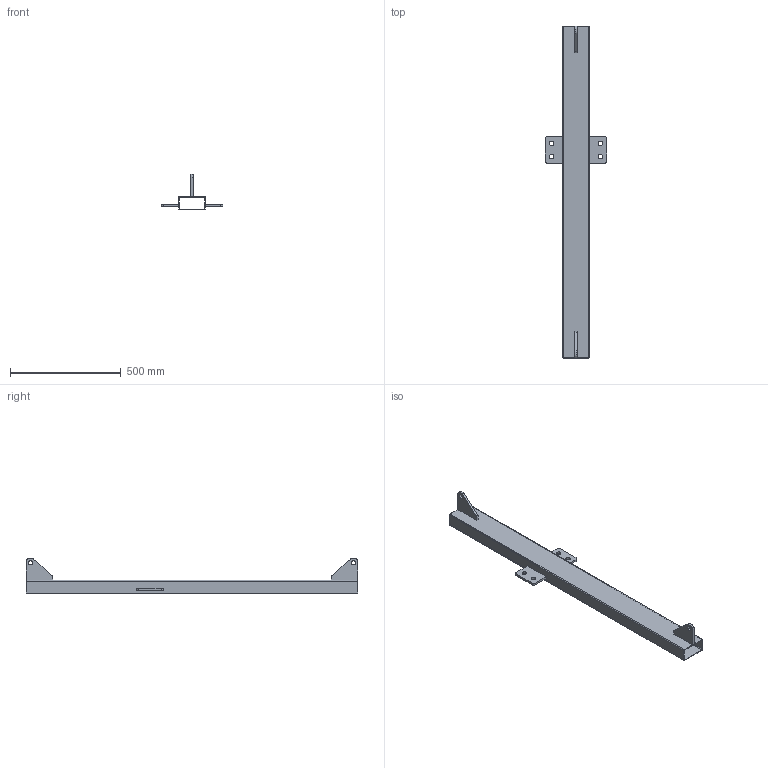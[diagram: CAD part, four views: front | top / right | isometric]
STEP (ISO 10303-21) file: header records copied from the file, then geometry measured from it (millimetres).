
FILE_DESCRIPTION(/* description */ ('Unknown'),/* implementation_level */ '2;1');
FILE_NAME(/* name */ 'Beam_assembly',/* time_stamp */ '2025-01-12T11:13:00+01:00',/* author */ ('Unknown'),/* organization */ ('Unknown'),/* preprocessor_version */ 'ST-DEVELOPER v19.4',/* originating_system */ 'Solid Edge',/* authorisation */ 'Unknown');
FILE_SCHEMA (('AUTOMOTIVE_DESIGN {1 0 10303 214 3 1 1}'));
Length unit declared in the file: millimetre
Products named in the file (4): Beam_assembly; BEAM; PART01; PART02
Assembly tree (5 placements, depth 2):
  Beam_assembly
    BEAM
    PART01  x2
    PART02  x2
Bounding box: 280 x 1500 x 160 mm (x, y, z)
Volume: 1905172.3 mm3; surface area: 1117726.4 mm2
Topology: 5 solids, 5 shells, 60 faces, 150 edges, 100 vertices
Faces by surface type: plane 36, cylinder 24
Full cylindrical faces by diameter (mm): 20 x6
Entity records: 1303 total; most frequent: DIRECTION 218, CARTESIAN_POINT 207, ORIENTED_EDGE 192, EDGE_CURVE 96, AXIS2_PLACEMENT_3D 77, VERTEX_POINT 66, LINE 64, VECTOR 64
